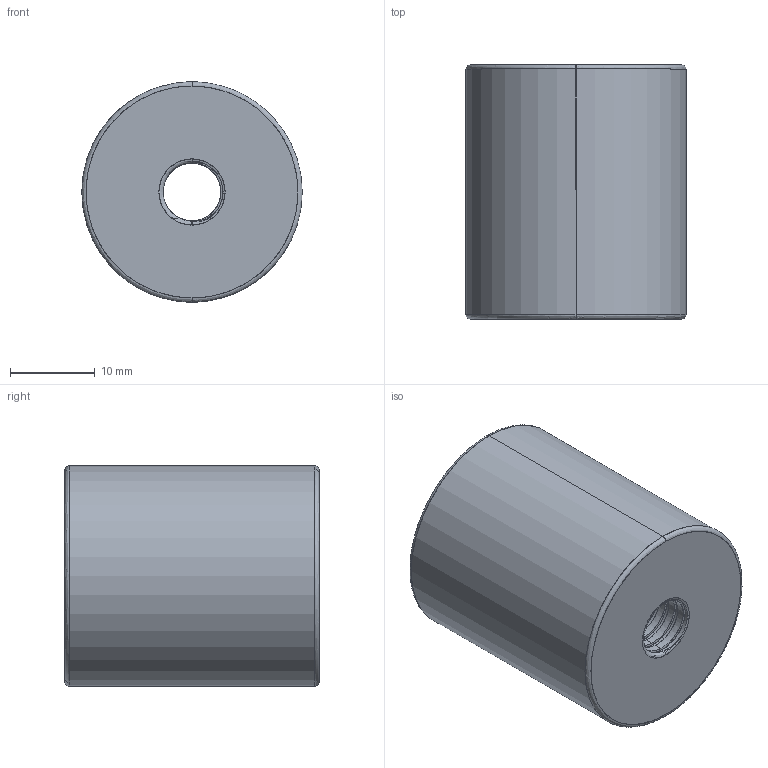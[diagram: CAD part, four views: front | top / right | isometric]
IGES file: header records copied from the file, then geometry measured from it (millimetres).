
Start section: SolidWorks IGES file using analytic representation for surfaces
Global section: file name: D:\Belgelerim\solid çalýþmalarým\D40 VÝDA KANALI AÇILACAK\ÝGS\D40_26X30.IGS; native system: SolidWorks 2008; preprocessor: SolidWorks 2008; author: kalite-mail; date: 080708.165208; units: millimetre
Bounding box: 26 x 30 x 26 mm (x, y, z)
Surface area: 4800.8 mm2 (no closed solid volume)
Topology: 0 solids, 0 shells, 61 faces, 1453 edges, 1453 vertices
Faces by surface type: revolution 43, bspline 18
